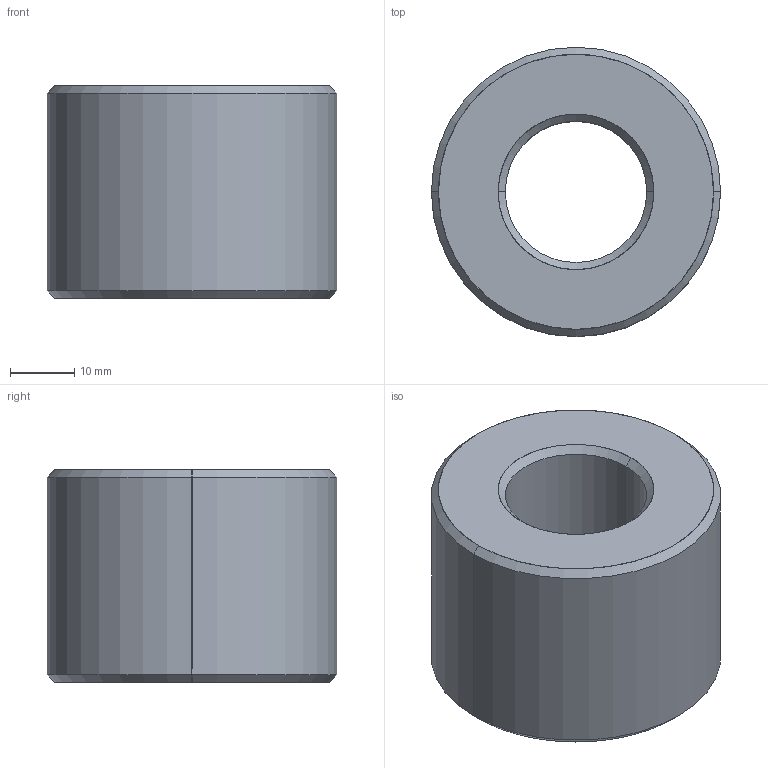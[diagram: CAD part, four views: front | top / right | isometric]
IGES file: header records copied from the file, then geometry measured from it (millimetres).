
Start section: SolidWorks IGES file using analytic representation for surfaces
Global section: file name: C:\Users\ianosborn\Desktop\L1339_v2\L1339_v2_20241024_IGES\L1339.R22-05.igs; native system: SolidWorks 2019; preprocessor: SolidWorks 2019; author: IanOsborn; date: 241024.151002; units: millimetre
Bounding box: 45 x 45 x 33 mm (x, y, z)
Surface area: 9095.4 mm2 (no closed solid volume)
Topology: 0 solids, 0 shells, 14 faces, 240 edges, 240 vertices
Faces by surface type: revolution 12, bspline 2
